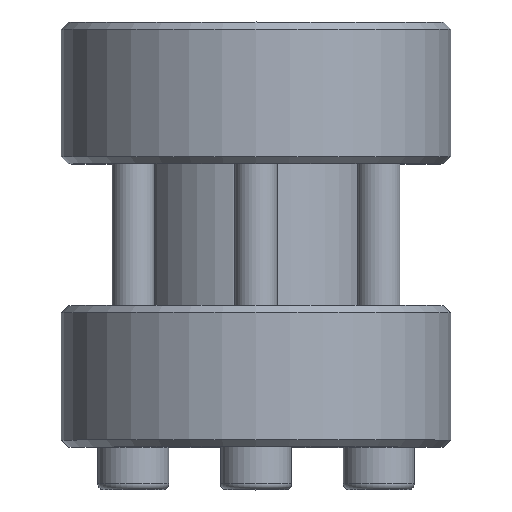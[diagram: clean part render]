
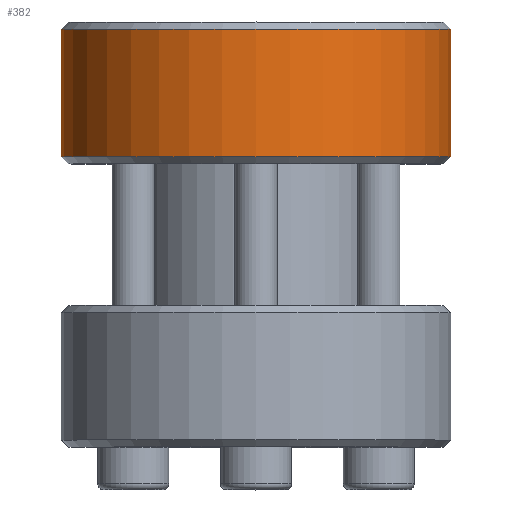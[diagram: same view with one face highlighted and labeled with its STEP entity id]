
A CAD part, top view. The second image highlights one B-rep face of the part: STEP entity #382.
In plain terms, the highlighted cylindrical face has radius 27.5 mm (diameter 55 mm), a full revolution.
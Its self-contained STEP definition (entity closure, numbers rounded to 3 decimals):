
#382 = ADVANCED_FACE( '', ( #632, #633 ), #634, .T. );
#632 = FACE_OUTER_BOUND( '', #802, .T. );
#633 = FACE_OUTER_BOUND( '', #803, .T. );
#634 = CYLINDRICAL_SURFACE( '', #804, 27.5 );
#802 = EDGE_LOOP( '', ( #1077 ) );
#803 = EDGE_LOOP( '', ( #1078 ) );
#804 = AXIS2_PLACEMENT_3D( '', #1079, #1080, #1081 );
#1077 = ORIENTED_EDGE( '', *, *, #1348, .T. );
#1078 = ORIENTED_EDGE( '', *, *, #1362, .T. );
#1079 = CARTESIAN_POINT( '', ( 0., -60., 0. ) );
#1080 = DIRECTION( '', ( 0., 1., 0. ) );
#1081 = DIRECTION( '', ( 0., 0., -1. ) );
#1348 = EDGE_CURVE( '', #1518, #1518, #1519, .T. );
#1362 = EDGE_CURVE( '', #1541, #1541, #1542, .T. );
#1518 = VERTEX_POINT( '', #1689 );
#1519 = CIRCLE( '', #1690, 27.5 );
#1541 = VERTEX_POINT( '', #1713 );
#1542 = CIRCLE( '', #1714, 27.5 );
#1689 = CARTESIAN_POINT( '', ( 0., 59., -27.5 ) );
#1690 = AXIS2_PLACEMENT_3D( '', #1807, #1808, #1809 );
#1713 = CARTESIAN_POINT( '', ( 0., 41., 27.5 ) );
#1714 = AXIS2_PLACEMENT_3D( '', #1847, #1848, #1849 );
#1807 = CARTESIAN_POINT( '', ( 0., 59., 0. ) );
#1808 = DIRECTION( '', ( 0., -1., 0. ) );
#1809 = DIRECTION( '', ( 0., 0., -1. ) );
#1847 = CARTESIAN_POINT( '', ( 0., 41., 0. ) );
#1848 = DIRECTION( '', ( 0., 1., 0. ) );
#1849 = DIRECTION( '', ( 0., 0., 1. ) );
